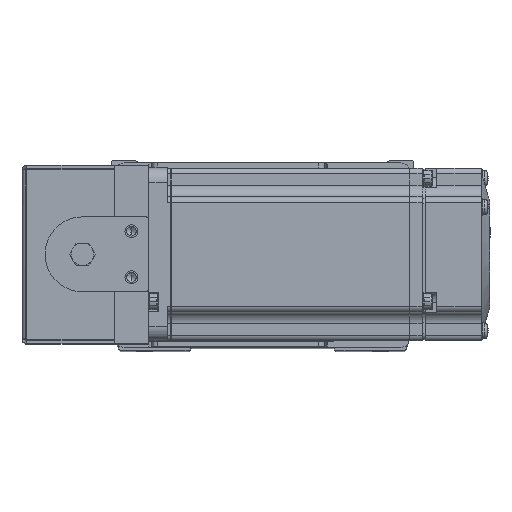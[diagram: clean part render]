
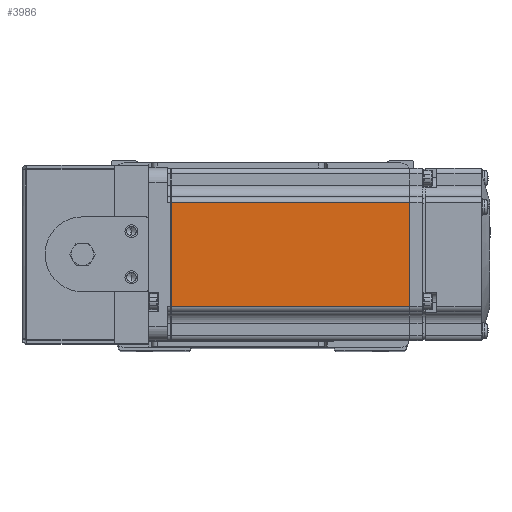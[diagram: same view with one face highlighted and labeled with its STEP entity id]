
A CAD part, top view. The second image highlights one B-rep face of the part: STEP entity #3986.
In plain terms, the highlighted planar face has unit normal (0, 0, 1) as drawn and (0, -1, 0) by its records, which use the part's own axes.
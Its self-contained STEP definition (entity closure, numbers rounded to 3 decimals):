
#469 = EDGE_CURVE ( 'NONE', #14153, #28315, #25221, .T. ) ;
#539 = CARTESIAN_POINT ( 'NONE',  ( -7.75, -30., 0. ) ) ;
#606 = EDGE_CURVE ( 'NONE', #30910, #5944, #29256, .T. ) ;
#1220 = FACE_OUTER_BOUND ( 'NONE', #4808, .T. ) ;
#1256 = LINE ( 'NONE', #4519, #13408 ) ;
#1813 = DIRECTION ( 'NONE',  ( -1., 0., 0. ) ) ;
#2651 = ORIENTED_EDGE ( 'NONE', *, *, #469, .T. ) ;
#3986 = ADVANCED_FACE ( 'NONE', ( #1220 ), #15333, .T. ) ;
#4519 = CARTESIAN_POINT ( 'NONE',  ( -90.45, -30., 0. ) ) ;
#4808 = EDGE_LOOP ( 'NONE', ( #14581, #2651, #26987, #27082 ) ) ;
#5645 = CARTESIAN_POINT ( 'NONE',  ( -6.5, -30., -18. ) ) ;
#5944 = VERTEX_POINT ( 'NONE', #32744 ) ;
#7611 = EDGE_CURVE ( 'NONE', #14153, #30910, #27413, .T. ) ;
#9118 = CARTESIAN_POINT ( 'NONE',  ( -7.75, -30., 18. ) ) ;
#11512 = CARTESIAN_POINT ( 'NONE',  ( -90.45, -30., 18. ) ) ;
#12337 = DIRECTION ( 'NONE',  ( 0., 0., -1. ) ) ;
#12831 = DIRECTION ( 'NONE',  ( 0., -1., 0. ) ) ;
#13054 = DIRECTION ( 'NONE',  ( 0., 0., -1. ) ) ;
#13408 = VECTOR ( 'NONE', #13054, 1000. ) ;
#14153 = VERTEX_POINT ( 'NONE', #9118 ) ;
#14234 = VECTOR ( 'NONE', #1813, 1000. ) ;
#14581 = ORIENTED_EDGE ( 'NONE', *, *, #7611, .F. ) ;
#14693 = EDGE_CURVE ( 'NONE', #28315, #5944, #1256, .T. ) ;
#15333 = PLANE ( 'NONE',  #28660 ) ;
#16039 = VECTOR ( 'NONE', #23069, 1000. ) ;
#19396 = CARTESIAN_POINT ( 'NONE',  ( -6.5, -30., 18. ) ) ;
#23069 = DIRECTION ( 'NONE',  ( -1., 0., 0. ) ) ;
#25221 = LINE ( 'NONE', #19396, #14234 ) ;
#26709 = CARTESIAN_POINT ( 'NONE',  ( -7.75, -30., -18. ) ) ;
#26987 = ORIENTED_EDGE ( 'NONE', *, *, #14693, .T. ) ;
#27082 = ORIENTED_EDGE ( 'NONE', *, *, #606, .F. ) ;
#27160 = CARTESIAN_POINT ( 'NONE',  ( -6.5, -30., -25. ) ) ;
#27413 = LINE ( 'NONE', #539, #37965 ) ;
#28315 = VERTEX_POINT ( 'NONE', #11512 ) ;
#28660 = AXIS2_PLACEMENT_3D ( 'NONE', #27160, #12831, #36046 ) ;
#29256 = LINE ( 'NONE', #5645, #16039 ) ;
#30910 = VERTEX_POINT ( 'NONE', #26709 ) ;
#32744 = CARTESIAN_POINT ( 'NONE',  ( -90.45, -30., -18. ) ) ;
#36046 = DIRECTION ( 'NONE',  ( 0., 0., -1. ) ) ;
#37965 = VECTOR ( 'NONE', #12337, 1000. ) ;
